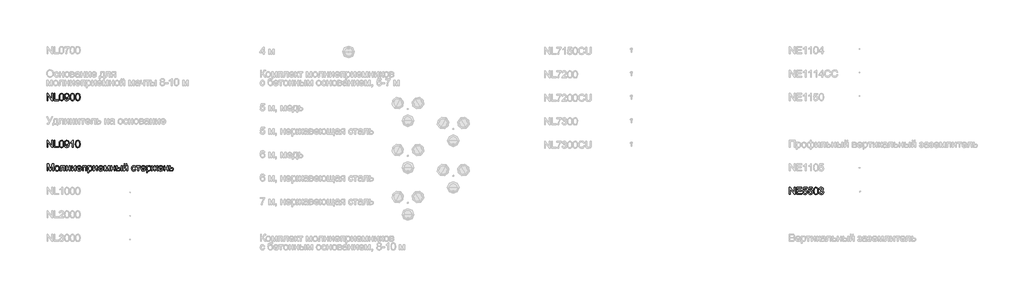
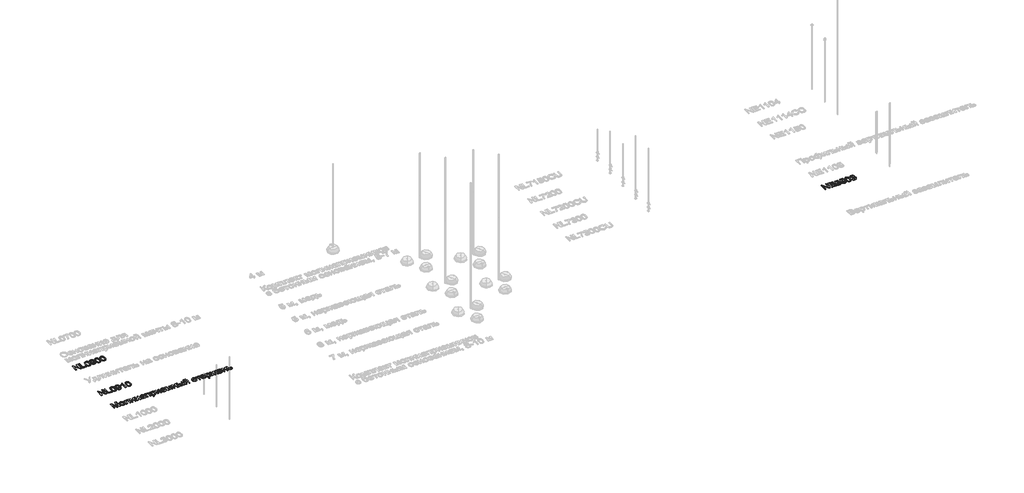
# One storey, part 52 of 124: 4 proxies.
"""IFC4 building model written with IfcOpenShell, lengths in millimetres."""

from ifc_helpers import new_model, si_unit, origin, origin_with_axes, place, context, project, spatial, polyline, outline, extrude, element, save

model = new_model("IFC4")

# Units and contexts
model_context = context("Model", 3, world=origin())
ifc_project = project(units=[si_unit("LENGTHUNIT", "METRE", prefix="MILLI")], contexts=[model_context])

# Site, building, storey
site = spatial("IfcSite", under=ifc_project)
building = spatial("IfcBuilding", under=site)
storey = spatial("IfcBuildingStorey", under=building, Name="Этаж 01", Elevation=0.0)

# Proxies
placement = place(None, origin())
element("IfcBuildingElementProxy", 1, Name="300", ObjectType="300", at=placement, inside=storey, context=model_context, shape_type="SweptSolid", body=[
    extrude(outline(polyline([(1299.8220677, -61074.498362), (1299.8220677, -60773.1294316), (1340.1419344, -60773.1294316), (1497.5954283, -61011.8848464), (1497.5954283, -60773.1294316), (1535.2665446, -60773.1294316), (1535.2665446, -61074.498362), (1494.9466779, -61074.498362), (1337.493184, -60835.6693707), (1337.493184, -61074.498362), (1299.8220677, -61074.498362)])), origin_with_axes(), (0.0, 0.0, 1.0), 20.0),
    extrude(outline(polyline([(1601.1909981, -61074.498362), (1601.1909981, -60773.1294316), (1638.8621144, -60773.1294316), (1638.8621144, -61036.8272457), (1789.5465797, -61036.8272457), (1789.5465797, -61074.498362), (1601.1909981, -61074.498362)])), origin_with_axes(), (0.0, 0.0, 1.0), 20.0),
    extrude(outline(polyline([(1817.7999169, -60926.2419179), (1820.5682289, -60878.0033913), (1828.873165, -60839.5321317), (1842.6319516, -60810.2395278), (1861.7618153, -60789.5369685), (1886.400712, -60777.2313158), (1916.6865972, -60773.1294316), (1939.8999511, -60775.5574527), (1960.6852838, -60782.8415162), (1978.0677081, -60794.6965135), (1991.0723366, -60810.8373361), (2000.8947859, -60831.1260281), (2008.7306724, -60855.4246339), (2013.8626262, -60886.2807362), (2015.5732775, -60926.2419179), (2012.8325566, -60974.2045331), (2004.6103941, -61012.5838222), (1990.9343809, -61041.9040172), (1971.8321083, -61062.68935), (1947.1380294, -61075.0777761), (1916.6865972, -61079.2072515), (1895.9380527, -61077.4138268), (1877.5439529, -61072.0335526), (1861.5042979, -61063.066429), (1847.8190877, -61050.5124559), (1834.6857005, -61027.8187353), (1825.3047096, -60999.5424055), (1819.6761151, -60965.6834664), (1817.7999169, -60926.2419179)]), holes=[polyline([(1855.4710332, -60926.1683415), (1859.8856172, -60985.4249339), (1865.4038471, -61005.6929326), (1873.129369, -61019.7207329), (1892.8478439, -61036.0822847), (1916.6865972, -61041.5361352), (1940.5253505, -61036.0638906), (1960.2438254, -61019.6471565), (1967.9693473, -61005.5963636), (1973.4875773, -60985.3329634), (1977.9021612, -60926.1683415), (1973.6347301, -60868.2453214), (1968.3004411, -60848.0440013), (1960.8324366, -60833.682808), (1941.1507499, -60816.5211129), (1916.2451388, -60810.8005479), (1892.6639029, -60815.8405312), (1873.7179802, -60830.9604812), (1865.7349409, -60846.595466), (1860.0327699, -60867.6751043), (1855.4710332, -60926.1683415)])]), origin_with_axes(), (0.0, 0.0, 1.0), 20.0),
    extrude(outline(polyline([(2053.2443938, -60999.1561294), (2090.9155101, -60994.4472399), (2097.353445, -61015.8303808), (2107.8380819, -61030.3893108), (2122.1119033, -61038.7494291), (2139.9173919, -61041.5361352), (2155.8926675, -61039.7427105), (2170.4148093, -61034.3624363), (2182.4813387, -61025.9839239), (2191.0897774, -61015.1957844), (2203.4138242, -60982.4542868), (2208.8584778, -60938.7499058), (2208.6377486, -60931.3922659), (2195.5871348, -60947.3215563), (2178.5082132, -60959.9399087), (2158.6333884, -60968.1620713), (2137.1950651, -60970.9027922), (2119.2999053, -60969.2289291), (2102.8440838, -60964.2073398), (2087.8276006, -60955.8380245), (2074.2504557, -60944.1209829), (2063.0001645, -60929.667819), (2054.9642421, -60913.0901366), (2050.1426887, -60894.3879357), (2048.5355043, -60873.5612162), (2050.2208637, -60852.0401195), (2055.2769418, -60832.7263148), (2063.7037388, -60815.619802), (2075.5012545, -60800.7205812), (2089.837156, -60788.6494532), (2105.8791103, -60780.027219), (2123.6271173, -60774.8538784), (2143.081177, -60773.1294316), (2171.1781644, -60777.0657689), (2196.7551601, -60788.8747809), (2218.1474982, -60807.9678565), (2233.6905125, -60833.7563844), (2243.1542768, -60869.4041497), (2246.3088649, -60918.0749377), (2243.1634738, -60969.6795845), (2233.7273006, -61009.5671899), (2218.0831188, -61039.5403754), (2196.3137017, -61061.401763), (2169.3571485, -61074.7558794), (2138.1515583, -61079.2072515), (2105.9434896, -61073.9557361), (2080.2469323, -61058.2011896), (2062.2758968, -61032.9368936), (2053.2443938, -60999.1561294)]), holes=[polyline([(2208.6377486, -60872.6782994), (2204.5726525, -60847.147289), (2192.3773644, -60827.5023904), (2173.4498357, -60814.9760085), (2149.1880182, -60810.8005479), (2124.0248897, -60815.2979053), (2103.8649564, -60828.7899774), (2090.6212045, -60849.4373544), (2086.2066206, -60875.4006262), (2090.3820812, -60898.6783595), (2102.9084632, -60917.1552327), (2122.5717558, -60929.2125651), (2148.1579486, -60933.2316759), (2172.2266281, -60929.2125651), (2191.6048122, -60917.1552327), (2204.3795145, -60897.9977778), (2208.6377486, -60872.6782994)])]), origin_with_axes(), (0.0, 0.0, 1.0), 20.0),
    extrude(outline(polyline([(2279.2710917, -60926.2419179), (2282.0394037, -60878.0033913), (2290.3443397, -60839.5321317), (2304.1031263, -60810.2395278), (2323.2329901, -60789.5369685), (2347.8718867, -60777.2313158), (2378.157772, -60773.1294316), (2401.3711259, -60775.5574527), (2422.1564586, -60782.8415162), (2439.5388829, -60794.6965135), (2452.5435114, -60810.8373361), (2462.3659607, -60831.1260281), (2470.2018471, -60855.4246339), (2475.333801, -60886.2807362), (2477.0444523, -60926.2419179), (2474.3037314, -60974.2045331), (2466.0815688, -61012.5838222), (2452.4055556, -61041.9040172), (2433.303283, -61062.68935), (2408.6092041, -61075.0777761), (2378.157772, -61079.2072515), (2357.4092274, -61077.4138268), (2339.0151277, -61072.0335526), (2322.9754727, -61063.066429), (2309.2902625, -61050.5124559), (2296.1568752, -61027.8187353), (2286.7758844, -60999.5424055), (2281.1472898, -60965.6834664), (2279.2710917, -60926.2419179)]), holes=[polyline([(2316.942208, -60926.1683415), (2321.3567919, -60985.4249339), (2326.8750218, -61005.6929326), (2334.6005437, -61019.7207329), (2354.3190187, -61036.0822847), (2378.157772, -61041.5361352), (2401.9965252, -61036.0638906), (2421.7150002, -61019.6471565), (2429.4405221, -61005.5963636), (2434.958752, -60985.3329634), (2439.373336, -60926.1683415), (2435.1059048, -60868.2453214), (2429.7716159, -60848.0440013), (2422.3036114, -60833.682808), (2402.6219246, -60816.5211129), (2377.7163136, -60810.8005479), (2354.1350777, -60815.8405312), (2335.1891549, -60830.9604812), (2327.2061156, -60846.595466), (2321.5039447, -60867.6751043), (2316.942208, -60926.1683415)])]), origin_with_axes(), (0.0, 0.0, 1.0), 20.0),
    extrude(outline(polyline([(2510.006679, -60926.2419179), (2512.774991, -60878.0033913), (2521.0799271, -60839.5321317), (2534.8387137, -60810.2395278), (2553.9685775, -60789.5369685), (2578.6074741, -60777.2313158), (2608.8933593, -60773.1294316), (2632.1067132, -60775.5574527), (2652.892046, -60782.8415162), (2670.2744702, -60794.6965135), (2683.2790988, -60810.8373361), (2693.101548, -60831.1260281), (2700.9374345, -60855.4246339), (2706.0693884, -60886.2807362), (2707.7800396, -60926.2419179), (2705.0393188, -60974.2045331), (2696.8171562, -61012.5838222), (2683.141143, -61041.9040172), (2664.0388704, -61062.68935), (2639.3447915, -61075.0777761), (2608.8933593, -61079.2072515), (2588.1448148, -61077.4138268), (2569.750715, -61072.0335526), (2553.7110601, -61063.066429), (2540.0258498, -61050.5124559), (2526.8924626, -61027.8187353), (2517.5114717, -60999.5424055), (2511.8828772, -60965.6834664), (2510.006679, -60926.2419179)]), holes=[polyline([(2547.6777953, -60926.1683415), (2552.0923793, -60985.4249339), (2557.6106092, -61005.6929326), (2565.3361311, -61019.7207329), (2585.054606, -61036.0822847), (2608.8933593, -61041.5361352), (2632.7321126, -61036.0638906), (2652.4505876, -61019.6471565), (2660.1761095, -61005.5963636), (2665.6943394, -60985.3329634), (2670.1089233, -60926.1683415), (2665.8414922, -60868.2453214), (2660.5072033, -60848.0440013), (2653.0391988, -60833.682808), (2633.357512, -60816.5211129), (2608.4519009, -60810.8005479), (2584.870665, -60815.8405312), (2565.9247423, -60830.9604812), (2557.941703, -60846.595466), (2552.2395321, -60867.6751043), (2547.6777953, -60926.1683415)])]), origin_with_axes(), (0.0, 0.0, 1.0), 20.0),
])
element("IfcBuildingElementProxy", 2, Name="300", ObjectType="300", at=placement, inside=storey, context=model_context, shape_type="SweptSolid", body=[
    extrude(outline(polyline([(1299.8220677, -63074.498362), (1299.8220677, -62773.1294316), (1340.1419344, -62773.1294316), (1497.5954283, -63011.8848464), (1497.5954283, -62773.1294316), (1535.2665446, -62773.1294316), (1535.2665446, -63074.498362), (1494.9466779, -63074.498362), (1337.493184, -62835.6693707), (1337.493184, -63074.498362), (1299.8220677, -63074.498362)])), origin_with_axes(), (0.0, 0.0, 1.0), 20.0),
    extrude(outline(polyline([(1601.1909981, -63074.498362), (1601.1909981, -62773.1294316), (1638.8621144, -62773.1294316), (1638.8621144, -63036.8272457), (1789.5465797, -63036.8272457), (1789.5465797, -63074.498362), (1601.1909981, -63074.498362)])), origin_with_axes(), (0.0, 0.0, 1.0), 20.0),
    extrude(outline(polyline([(1817.7999169, -62926.2419179), (1820.5682289, -62878.0033913), (1828.873165, -62839.5321317), (1842.6319516, -62810.2395278), (1861.7618153, -62789.5369685), (1886.400712, -62777.2313158), (1916.6865972, -62773.1294316), (1939.8999511, -62775.5574527), (1960.6852838, -62782.8415162), (1978.0677081, -62794.6965135), (1991.0723366, -62810.8373361), (2000.8947859, -62831.1260281), (2008.7306724, -62855.4246339), (2013.8626262, -62886.2807362), (2015.5732775, -62926.2419179), (2012.8325566, -62974.2045331), (2004.6103941, -63012.5838222), (1990.9343809, -63041.9040172), (1971.8321083, -63062.68935), (1947.1380294, -63075.0777761), (1916.6865972, -63079.2072515), (1895.9380527, -63077.4138268), (1877.5439529, -63072.0335526), (1861.5042979, -63063.066429), (1847.8190877, -63050.5124559), (1834.6857005, -63027.8187353), (1825.3047096, -62999.5424055), (1819.6761151, -62965.6834664), (1817.7999169, -62926.2419179)]), holes=[polyline([(1855.4710332, -62926.1683415), (1859.8856172, -62985.4249339), (1865.4038471, -63005.6929326), (1873.129369, -63019.7207329), (1892.8478439, -63036.0822847), (1916.6865972, -63041.5361352), (1940.5253505, -63036.0638906), (1960.2438254, -63019.6471565), (1967.9693473, -63005.5963636), (1973.4875773, -62985.3329634), (1977.9021612, -62926.1683415), (1973.6347301, -62868.2453214), (1968.3004411, -62848.0440013), (1960.8324366, -62833.682808), (1941.1507499, -62816.5211129), (1916.2451388, -62810.8005479), (1892.6639029, -62815.8405312), (1873.7179802, -62830.9604812), (1865.7349409, -62846.595466), (1860.0327699, -62867.6751043), (1855.4710332, -62926.1683415)])]), origin_with_axes(), (0.0, 0.0, 1.0), 20.0),
    extrude(outline(polyline([(2053.2443938, -62999.1561294), (2090.9155101, -62994.4472399), (2097.353445, -63015.8303808), (2107.8380819, -63030.3893108), (2122.1119033, -63038.7494291), (2139.9173919, -63041.5361352), (2155.8926675, -63039.7427105), (2170.4148093, -63034.3624363), (2182.4813387, -63025.9839239), (2191.0897774, -63015.1957844), (2203.4138242, -62982.4542868), (2208.8584778, -62938.7499058), (2208.6377486, -62931.3922659), (2195.5871348, -62947.3215563), (2178.5082132, -62959.9399087), (2158.6333884, -62968.1620713), (2137.1950651, -62970.9027922), (2119.2999053, -62969.2289291), (2102.8440838, -62964.2073398), (2087.8276006, -62955.8380245), (2074.2504557, -62944.1209829), (2063.0001645, -62929.667819), (2054.9642421, -62913.0901366), (2050.1426887, -62894.3879357), (2048.5355043, -62873.5612162), (2050.2208637, -62852.0401195), (2055.2769418, -62832.7263148), (2063.7037388, -62815.619802), (2075.5012545, -62800.7205812), (2089.837156, -62788.6494532), (2105.8791103, -62780.027219), (2123.6271173, -62774.8538784), (2143.081177, -62773.1294316), (2171.1781644, -62777.0657689), (2196.7551601, -62788.8747809), (2218.1474982, -62807.9678565), (2233.6905125, -62833.7563844), (2243.1542768, -62869.4041497), (2246.3088649, -62918.0749377), (2243.1634738, -62969.6795845), (2233.7273006, -63009.5671899), (2218.0831188, -63039.5403754), (2196.3137017, -63061.401763), (2169.3571485, -63074.7558794), (2138.1515583, -63079.2072515), (2105.9434896, -63073.9557361), (2080.2469323, -63058.2011896), (2062.2758968, -63032.9368936), (2053.2443938, -62999.1561294)]), holes=[polyline([(2208.6377486, -62872.6782994), (2204.5726525, -62847.147289), (2192.3773644, -62827.5023904), (2173.4498357, -62814.9760085), (2149.1880182, -62810.8005479), (2124.0248897, -62815.2979053), (2103.8649564, -62828.7899774), (2090.6212045, -62849.4373544), (2086.2066206, -62875.4006262), (2090.3820812, -62898.6783595), (2102.9084632, -62917.1552327), (2122.5717558, -62929.2125651), (2148.1579486, -62933.2316759), (2172.2266281, -62929.2125651), (2191.6048122, -62917.1552327), (2204.3795145, -62897.9977778), (2208.6377486, -62872.6782994)])]), origin_with_axes(), (0.0, 0.0, 1.0), 20.0),
    extrude(outline(polyline([(2420.5377778, -63074.498362), (2382.8666615, -63074.498362), (2382.8666615, -62839.6424963), (2347.182108, -62865.0631421), (2307.5244289, -62884.0826413), (2307.5244289, -62848.4716642), (2337.1113383, -62832.3768269), (2362.7435164, -62813.228569), (2382.9494349, -62792.8663006), (2396.2575661, -62773.1294316), (2420.5377778, -62773.1294316), (2420.5377778, -63074.498362)])), origin_with_axes(), (0.0, 0.0, 1.0), 20.0),
    extrude(outline(polyline([(2510.006679, -62926.2419179), (2512.774991, -62878.0033913), (2521.0799271, -62839.5321317), (2534.8387137, -62810.2395278), (2553.9685775, -62789.5369685), (2578.6074741, -62777.2313158), (2608.8933593, -62773.1294316), (2632.1067132, -62775.5574527), (2652.892046, -62782.8415162), (2670.2744702, -62794.6965135), (2683.2790988, -62810.8373361), (2693.101548, -62831.1260281), (2700.9374345, -62855.4246339), (2706.0693884, -62886.2807362), (2707.7800396, -62926.2419179), (2705.0393188, -62974.2045331), (2696.8171562, -63012.5838222), (2683.141143, -63041.9040172), (2664.0388704, -63062.68935), (2639.3447915, -63075.0777761), (2608.8933593, -63079.2072515), (2588.1448148, -63077.4138268), (2569.750715, -63072.0335526), (2553.7110601, -63063.066429), (2540.0258498, -63050.5124559), (2526.8924626, -63027.8187353), (2517.5114717, -62999.5424055), (2511.8828772, -62965.6834664), (2510.006679, -62926.2419179)]), holes=[polyline([(2547.6777953, -62926.1683415), (2552.0923793, -62985.4249339), (2557.6106092, -63005.6929326), (2565.3361311, -63019.7207329), (2585.054606, -63036.0822847), (2608.8933593, -63041.5361352), (2632.7321126, -63036.0638906), (2652.4505876, -63019.6471565), (2660.1761095, -63005.5963636), (2665.6943394, -62985.3329634), (2670.1089233, -62926.1683415), (2665.8414922, -62868.2453214), (2660.5072033, -62848.0440013), (2653.0391988, -62833.682808), (2633.357512, -62816.5211129), (2608.4519009, -62810.8005479), (2584.870665, -62815.8405312), (2565.9247423, -62830.9604812), (2557.941703, -62846.595466), (2552.2395321, -62867.6751043), (2547.6777953, -62926.1683415)])]), origin_with_axes(), (0.0, 0.0, 1.0), 20.0),
])
element("IfcBuildingElementProxy", 3, Name="300", ObjectType="300", at=placement, inside=storey, context=model_context, shape_type="SweptSolid", body=[
    extrude(outline(polyline([(1299.8220677, -64074.498362), (1299.8220677, -63773.1294316), (1364.6428752, -63773.1294316), (1426.2998976, -63985.5444956), (1438.7343091, -64029.9110642), (1452.1987901, -63981.8656756), (1512.8257429, -63773.1294316), (1577.6465505, -63773.1294316), (1577.6465505, -64074.498362), (1539.9754341, -64074.498362), (1539.9754341, -63810.8005479), (1464.2653195, -64074.498362), (1413.2032986, -64074.498362), (1337.493184, -63810.8005479), (1337.493184, -64074.498362), (1299.8220677, -64074.498362)])), origin_with_axes(), (0.0, 0.0, 1.0), 20.0),
    extrude(outline(polyline([(1629.4443354, -63963.8394579), (1631.4814819, -63935.1768519), (1637.5929216, -63910.4781745), (1647.7786543, -63889.7434255), (1662.0386801, -63872.972605), (1676.395275, -63862.2534434), (1692.2417919, -63854.5968994), (1709.578231, -63850.002973), (1728.4045921, -63848.4716642), (1749.1876255, -63850.336366), (1767.9794977, -63855.9304716), (1784.7802086, -63865.2539809), (1799.5897581, -63878.306894), (1811.6769809, -63894.6477523), (1820.3107115, -63913.8350977), (1825.4909499, -63935.8689299), (1827.217696, -63960.7492491), (1824.1642754, -63998.8066415), (1815.0040137, -64027.7773486), (1800.0036254, -64049.4731893), (1779.4298248, -64065.7059823), (1754.9932633, -64075.8319342), (1728.4045921, -64079.2072515), (1707.318056, -64077.3494475), (1688.3514398, -64071.7760352), (1671.5047437, -64062.4870149), (1656.7779676, -64049.4823863), (1644.8195035, -64032.9828788), (1636.2777434, -64013.2092216), (1631.1526874, -63990.1614146), (1629.4443354, -63963.8394579)]), holes=[polyline([(1667.1154517, -63963.7658815), (1671.4748533, -63997.8593454), (1684.5530582, -64022.1487541), (1704.234745, -64036.6892899), (1728.4045921, -64041.5361352), (1752.4640746, -64036.6616988), (1772.1089731, -64022.0383895), (1785.187178, -63997.427084), (1789.5465797, -63962.5886591), (1785.1595869, -63929.4884766), (1771.9986085, -63905.5301616), (1752.3261188, -63890.9896258), (1728.4045921, -63886.1427805), (1704.234745, -63890.9712317), (1684.5530582, -63905.4565852), (1671.4748533, -63929.6908117), (1667.1154517, -63963.7658815)])]), origin_with_axes(), (0.0, 0.0, 1.0), 20.0),
    extrude(outline(polyline([(1888.43326, -63853.1805537), (2057.9532834, -63853.1805537), (2057.9532834, -64074.2776328), (2020.282167, -64074.2776328), (2020.282167, -63890.85167), (1926.1043763, -63890.85167), (1926.1043763, -63996.4338026), (1923.5659905, -64045.1413788), (1918.8111157, -64056.1686416), (1909.6232629, -64065.7059823), (1895.6805353, -64072.3002671), (1876.6610361, -64074.498362), (1846.0532541, -64072.5853756), (1846.0532541, -64036.8272457), (1862.9022495, -64036.8272457), (1879.9351859, -64034.5095891), (1886.7410028, -64027.1519492), (1888.43326, -63994.3000871), (1888.43326, -63853.1805537)])), origin_with_axes(), (0.0, 0.0, 1.0), 20.0),
    extrude(outline(polyline([(2114.4599578, -63853.1805537), (2152.1310741, -63853.1805537), (2152.1310741, -63937.9405654), (2251.0177544, -63937.9405654), (2251.0177544, -63853.1805537), (2288.6888707, -63853.1805537), (2288.6888707, -64074.498362), (2251.0177544, -64074.498362), (2251.0177544, -63975.6116817), (2152.1310741, -63975.6116817), (2152.1310741, -64074.498362), (2114.4599578, -64074.498362), (2114.4599578, -63853.1805537)])), origin_with_axes(), (0.0, 0.0, 1.0), 20.0),
    extrude(outline(polyline([(2345.1955452, -63853.1805537), (2382.8666615, -63853.1805537), (2382.8666615, -64021.9648131), (2475.4257715, -63853.1805537), (2524.1333476, -63853.1805537), (2524.1333476, -64074.498362), (2486.4622313, -64074.498362), (2486.4622313, -63906.7441722), (2394.4917325, -64074.498362), (2345.1955452, -64074.498362), (2345.1955452, -63853.1805537)])), origin_with_axes(), (0.0, 0.0, 1.0), 20.0),
    extrude(outline(polyline([(2735.5919185, -64008.5739085), (2772.5272708, -64013.282798), (2759.2191396, -64041.1130709), (2737.9831514, -64061.9167978), (2709.2975529, -64074.8846381), (2673.6405905, -64079.2072515), (2650.2662882, -64077.3425497), (2629.4395688, -64071.7484441), (2611.1604321, -64062.4249348), (2595.4288783, -64049.3720217), (2582.7783362, -64032.9529884), (2573.7422347, -64013.5311184), (2568.3205738, -63991.1064115), (2566.5133535, -63965.6788678), (2568.3389679, -63939.3891007), (2573.8158111, -63916.2171336), (2582.9438831, -63896.1629663), (2595.7231839, -63879.226599), (2611.413351, -63865.771315), (2629.2740219, -63856.1603979), (2649.3051965, -63850.3938476), (2671.5068749, -63848.4716642), (2692.9934827, -63850.3892491), (2712.4245498, -63856.1420038), (2729.8000763, -63865.7299283), (2745.1200621, -63879.1530226), (2757.6257507, -63896.0526017), (2766.5583854, -63916.0699808), (2771.9179662, -63939.2051598), (2773.7044932, -63965.4581386), (2773.483764, -63975.6116817), (2604.1844698, -63975.6116817), (2610.7051782, -64003.8098366), (2625.8527193, -64024.5399871), (2647.7141069, -64037.2870982), (2674.3763545, -64041.5361352), (2694.4259232, -64039.5679666), (2711.3117068, -64033.6634605), (2725.0337052, -64023.4547352), (2735.5919185, -64008.5739085)]), holes=[polyline([(2604.1844698, -63937.9405654), (2736.0333769, -63937.9405654), (2730.9382112, -63918.0381495), (2720.9502151, -63903.8011162), (2698.9876599, -63890.5573644), (2671.3597221, -63886.1427805), (2645.9666674, -63889.6652506), (2624.9698025, -63900.2326609), (2610.3740844, -63916.7045772), (2604.1844698, -63937.9405654)])]), origin_with_axes(), (0.0, 0.0, 1.0), 20.0),
    extrude(outline(polyline([(2811.3756095, -63853.1805537), (2980.8956329, -63853.1805537), (2980.8956329, -64074.498362), (2943.2245165, -64074.498362), (2943.2245165, -63890.85167), (2849.0467258, -63890.85167), (2849.0467258, -64074.498362), (2811.3756095, -64074.498362), (2811.3756095, -63853.1805537)])), origin_with_axes(), (0.0, 0.0, 1.0), 20.0),
    extrude(outline(polyline([(3037.4023073, -64159.2583737), (3037.4023073, -63853.1805537), (3075.0734236, -63853.1805537), (3075.0734236, -63890.115906), (3087.3606823, -63871.8965502), (3101.1194689, -63858.8827246), (3117.1591239, -63851.0744293), (3136.2889876, -63848.4716642), (3161.7648158, -63852.1136959), (3184.0400706, -63863.0397912), (3202.176653, -63880.5877623), (3215.2364638, -63904.0954218), (3223.1275326, -63931.8521184), (3225.7578888, -63962.1472007), (3222.7872417, -63994.3644664), (3213.8753004, -64023.1788237), (3199.3071734, -64047.1279416), (3179.3679693, -64064.7494891), (3156.1454183, -64075.5928109), (3131.7272509, -64079.2072515), (3114.409206, -64076.7884274), (3098.9489651, -64069.5319551), (3085.7144103, -64058.5782687), (3075.0734236, -64045.0678024), (3075.0734236, -64159.2583737), (3037.4023073, -64159.2583737)]), holes=[polyline([(3075.0734236, -63965.6052914), (3079.1477167, -63999.3768586), (3091.370596, -64022.9948827), (3109.4060108, -64036.9008221), (3130.9179105, -64041.5361352), (3152.7792981, -64036.7352752), (3171.2745654, -64022.3326951), (3183.8837207, -63997.8501483), (3188.0867725, -63962.8093883), (3183.9848883, -63929.2217621), (3171.6792356, -63905.2726442), (3153.6714119, -63890.9252464), (3132.4630149, -63886.1427805), (3111.1718444, -63891.2287491), (3092.474242, -63906.4866548), (3079.4236282, -63931.4382511), (3075.0734236, -63965.6052914)])]), origin_with_axes(), (0.0, 0.0, 1.0), 20.0),
    extrude(outline(polyline([(3268.1378947, -63853.1805537), (3305.809011, -63853.1805537), (3305.809011, -64021.9648131), (3398.368121, -63853.1805537), (3447.0756971, -63853.1805537), (3447.0756971, -64074.498362), (3409.4045808, -64074.498362), (3409.4045808, -63906.7441722), (3317.434082, -64074.498362), (3268.1378947, -64074.498362), (3268.1378947, -63853.1805537)])), origin_with_axes(), (0.0, 0.0, 1.0), 20.0),
    extrude(outline(polyline([(3658.534268, -64008.5739085), (3695.4696203, -64013.282798), (3682.1614891, -64041.1130709), (3660.9255009, -64061.9167978), (3632.2399024, -64074.8846381), (3596.58294, -64079.2072515), (3573.2086377, -64077.3425497), (3552.3819183, -64071.7484441), (3534.1027816, -64062.4249348), (3518.3712278, -64049.3720217), (3505.7206857, -64032.9529884), (3496.6845842, -64013.5311184), (3491.2629233, -63991.1064115), (3489.455703, -63965.6788678), (3491.2813174, -63939.3891007), (3496.7581606, -63916.2171336), (3505.8862326, -63896.1629663), (3518.6655334, -63879.226599), (3534.3557005, -63865.771315), (3552.2163714, -63856.1603979), (3572.247546, -63850.3938476), (3594.4492244, -63848.4716642), (3615.9358322, -63850.3892491), (3635.3668993, -63856.1420038), (3652.7424258, -63865.7299283), (3668.0624116, -63879.1530226), (3680.5681002, -63896.0526017), (3689.5007349, -63916.0699808), (3694.8603157, -63939.2051598), (3696.6468427, -63965.4581386), (3696.4261135, -63975.6116817), (3527.1268193, -63975.6116817), (3533.6475277, -64003.8098366), (3548.7950688, -64024.5399871), (3570.6564564, -64037.2870982), (3597.318704, -64041.5361352), (3617.3682727, -64039.5679666), (3634.2540563, -64033.6634605), (3647.9760547, -64023.4547352), (3658.534268, -64008.5739085)]), holes=[polyline([(3527.1268193, -63937.9405654), (3658.9757264, -63937.9405654), (3653.8805607, -63918.0381495), (3643.8925646, -63903.8011162), (3621.9300094, -63890.5573644), (3594.3020716, -63886.1427805), (3568.9090169, -63889.6652506), (3547.912152, -63900.2326609), (3533.3164339, -63916.7045772), (3527.1268193, -63937.9405654)])]), origin_with_axes(), (0.0, 0.0, 1.0), 20.0),
    extrude(outline(polyline([(3734.317959, -63853.1805537), (3799.1387665, -63853.1805537), (3849.0971415, -64030.3525226), (3902.9550656, -63853.1805537), (3965.0535464, -63853.1805537), (3965.0535464, -64074.498362), (3927.38243, -64074.498362), (3927.38243, -63896.2963235), (3873.2302004, -64074.498362), (3823.7868602, -64074.498362), (3771.9890753, -63887.7614613), (3771.9890753, -64074.498362), (3734.317959, -64074.498362), (3734.317959, -63853.1805537)])), origin_with_axes(), (0.0, 0.0, 1.0), 20.0),
    extrude(outline(polyline([(4021.5602208, -63853.1805537), (4059.2313371, -63853.1805537), (4059.2313371, -63937.9405654), (4158.1180174, -63937.9405654), (4158.1180174, -63853.1805537), (4195.7891337, -63853.1805537), (4195.7891337, -64074.498362), (4158.1180174, -64074.498362), (4158.1180174, -63975.6116817), (4059.2313371, -63975.6116817), (4059.2313371, -64074.498362), (4021.5602208, -64074.498362), (4021.5602208, -63853.1805537)])), origin_with_axes(), (0.0, 0.0, 1.0), 20.0),
    extrude(outline(polyline([(4459.4869479, -63853.1805537), (4497.1580642, -63853.1805537), (4497.1580642, -64074.498362), (4459.4869479, -64074.498362), (4459.4869479, -63853.1805537)])), origin_with_axes(), (0.0, 0.0, 1.0), 20.0),
    extrude(outline(polyline([(4252.2958082, -63853.1805537), (4289.9669245, -63853.1805537), (4289.9669245, -63933.2316759), (4336.5407851, -63933.2316759), (4376.7962724, -63937.9497624), (4393.0129706, -63943.8473707), (4406.6223052, -63952.1040222), (4417.3897513, -63962.4346085), (4425.0807843, -63974.554021), (4429.695404, -63988.4622596), (4431.2336106, -64004.1593245), (4426.0740657, -64031.1158777), (4410.5954307, -64053.8601821), (4398.7335356, -64062.8893858), (4383.7860303, -64069.338817), (4344.634189, -64074.498362), (4252.2958082, -64074.498362), (4252.2958082, -63853.1805537)]), holes=[polyline([(4289.9669245, -64036.8272457), (4328.6681104, -64036.8272457), (4358.6688871, -64034.84988), (4378.6264853, -64028.9177828), (4389.8284921, -64018.7918309), (4393.5624943, -64004.2329009), (4390.7941823, -63991.9272482), (4382.4892463, -63981.0563352), (4364.729743, -63973.4411779), (4333.5977291, -63970.9027922), (4289.9669245, -63970.9027922), (4289.9669245, -64036.8272457)])]), origin_with_axes(), (0.0, 0.0, 1.0), 20.0),
    extrude(outline(polyline([(4553.6647386, -63853.1805537), (4591.3358549, -63853.1805537), (4591.3358549, -64021.9648131), (4683.8949649, -63853.1805537), (4732.6025411, -63853.1805537), (4732.6025411, -64074.498362), (4694.9314248, -64074.498362), (4694.9314248, -63906.7441722), (4602.960926, -64074.498362), (4553.6647386, -64074.498362), (4553.6647386, -63853.1805537)])), origin_with_axes(), (0.0, 0.0, 1.0), 20.0),
    extrude(outline(polyline([(4676.0958666, -63773.1294316), (4704.3492039, -63773.1294316), (4698.2699539, -63797.2532934), (4686.0654687, -63815.0311908), (4668.2875713, -63825.9848772), (4645.4880846, -63829.636106), (4620.7480205, -63826.0124684), (4601.5629744, -63815.1415554), (4588.4479813, -63797.3912491), (4581.9180759, -63773.1294316), (4610.1714131, -63773.1294316), (4614.1445386, -63785.5362518), (4620.7664146, -63794.3562227), (4630.073829, -63799.6261323), (4642.1035703, -63801.3827688), (4655.6784159, -63799.6813146), (4665.5008652, -63794.5769519), (4672.1227411, -63785.8121633), (4676.0958666, -63773.1294316)])), origin_with_axes(), (0.0, 0.0, 1.0), 20.0),
    extrude(outline(polyline([(5048.0981402, -63994.4472399), (5085.7692565, -63999.1561294), (5075.2662255, -64032.6609821), (5055.5293565, -64057.9804604), (5028.4164534, -64073.9005538), (4995.7853204, -64079.2072515), (4974.6573976, -64077.3563453), (4955.7137741, -64071.8036264), (4938.95445, -64062.5490949), (4924.3794252, -64049.5927509), (4912.5819094, -64033.1783162), (4904.1551125, -64013.5495125), (4899.0990343, -63990.7063398), (4897.4136749, -63964.6487982), (4900.2923515, -63931.1255514), (4908.9283814, -63902.0720709), (4923.4597202, -63878.6103966), (4944.0243237, -63861.8625688), (4968.6264321, -63851.8193903), (4995.2702856, -63848.4716642), (5027.1012753, -63853.0701891), (5052.5495123, -63866.8657639), (5070.8056563, -63889.1226246), (5081.0603669, -63919.1050072), (5043.3892506, -63923.8138968), (5036.5558426, -63907.3787686), (5025.9148558, -63895.5973477), (5012.0549017, -63888.5064223), (4995.5645912, -63886.1427805), (4971.2200002, -63890.7964877), (4951.8969984, -63904.7576094), (4939.287843, -63928.7803037), (4935.0847912, -63963.6187287), (4939.1958725, -63998.9262031), (4951.5291164, -64023.0316709), (4970.5026303, -64036.9100191), (4994.5345217, -64041.5361352), (5014.0414644, -64038.6482616), (5030.0351342, -64029.9846406), (5041.6694023, -64015.3245431), (5048.0981402, -63994.4472399)])), origin_with_axes(), (0.0, 0.0, 1.0), 20.0),
    extrude(outline(polyline([(5099.8959251, -63853.1805537), (5278.8337275, -63853.1805537), (5278.8337275, -63890.85167), (5208.2003845, -63890.85167), (5208.2003845, -64074.498362), (5170.5292681, -64074.498362), (5170.5292681, -63890.85167), (5099.8959251, -63890.85167), (5099.8959251, -63853.1805537)])), origin_with_axes(), (0.0, 0.0, 1.0), 20.0),
    extrude(outline(polyline([(5466.7478507, -64008.5739085), (5503.683203, -64013.282798), (5490.3750718, -64041.1130709), (5469.1390836, -64061.9167978), (5440.4534851, -64074.8846381), (5404.7965227, -64079.2072515), (5381.4222204, -64077.3425497), (5360.595501, -64071.7484441), (5342.3163643, -64062.4249348), (5326.5848105, -64049.3720217), (5313.9342684, -64032.9529884), (5304.8981669, -64013.5311184), (5299.476506, -63991.1064115), (5297.6692857, -63965.6788678), (5299.4949001, -63939.3891007), (5304.9717433, -63916.2171336), (5314.0998153, -63896.1629663), (5326.8791161, -63879.226599), (5342.5692832, -63865.771315), (5360.4299541, -63856.1603979), (5380.4611287, -63850.3938476), (5402.6628071, -63848.4716642), (5424.1494149, -63850.3892491), (5443.580482, -63856.1420038), (5460.9560085, -63865.7299283), (5476.2759943, -63879.1530226), (5488.7816829, -63896.0526017), (5497.7143176, -63916.0699808), (5503.0738984, -63939.2051598), (5504.8604254, -63965.4581386), (5504.6396962, -63975.6116817), (5335.340402, -63975.6116817), (5341.8611103, -64003.8098366), (5357.0086515, -64024.5399871), (5378.8700391, -64037.2870982), (5405.5322867, -64041.5361352), (5425.5818554, -64039.5679666), (5442.467639, -64033.6634605), (5456.1896374, -64023.4547352), (5466.7478507, -64008.5739085)]), holes=[polyline([(5335.340402, -63937.9405654), (5467.1893091, -63937.9405654), (5462.0941434, -63918.0381495), (5452.1061473, -63903.8011162), (5430.1435921, -63890.5573644), (5402.5156543, -63886.1427805), (5377.1225996, -63889.6652506), (5356.1257347, -63900.2326609), (5341.5300166, -63916.7045772), (5335.340402, -63937.9405654)])]), origin_with_axes(), (0.0, 0.0, 1.0), 20.0),
    extrude(outline(polyline([(5542.5315417, -64159.2583737), (5542.5315417, -63853.1805537), (5580.202658, -63853.1805537), (5580.202658, -63890.115906), (5592.4899166, -63871.8965502), (5606.2487032, -63858.8827246), (5622.2883582, -63851.0744293), (5641.418222, -63848.4716642), (5666.8940501, -63852.1136959), (5689.1693049, -63863.0397912), (5707.3058873, -63880.5877623), (5720.3656981, -63904.0954218), (5728.2567669, -63931.8521184), (5730.8871232, -63962.1472007), (5727.9164761, -63994.3644664), (5719.0045348, -64023.1788237), (5704.4364077, -64047.1279416), (5684.4972036, -64064.7494891), (5661.2746527, -64075.5928109), (5636.8564852, -64079.2072515), (5619.5384403, -64076.7884274), (5604.0781995, -64069.5319551), (5590.8436447, -64058.5782687), (5580.202658, -64045.0678024), (5580.202658, -64159.2583737), (5542.5315417, -64159.2583737)]), holes=[polyline([(5580.202658, -63965.6052914), (5584.2769511, -63999.3768586), (5596.4998304, -64022.9948827), (5614.5352452, -64036.9008221), (5636.0471448, -64041.5361352), (5657.9085324, -64036.7352752), (5676.4037997, -64022.3326951), (5689.0129551, -63997.8501483), (5693.2160069, -63962.8093883), (5689.1141226, -63929.2217621), (5676.8084699, -63905.2726442), (5658.8006462, -63890.9252464), (5637.5922492, -63886.1427805), (5616.3010788, -63891.2287491), (5597.6034763, -63906.4866548), (5584.5528626, -63931.4382511), (5580.202658, -63965.6052914)])]), origin_with_axes(), (0.0, 0.0, 1.0), 20.0),
    extrude(outline(polyline([(5909.8249257, -63853.1805537), (5909.8249257, -63947.3583445), (5923.1146627, -63945.4177669), (5931.7874808, -63939.5960344), (5952.5728135, -63899.3129559), (5965.5406538, -63874.2050097), (5977.36806, -63860.6853464), (5991.7338519, -63855.0567519), (6012.6111551, -63853.1805537), (6027.5471641, -63853.1805537), (6027.5471641, -63891.0723992), (6017.1728918, -63890.85167), (5997.7487225, -63894.7512192), (5984.2842415, -63919.1785836), (5968.6492567, -63945.9603929), (5946.3188196, -63959.5720267), (5958.7118443, -63964.874126), (5970.9485192, -63974.2321242), (5994.9528193, -64005.1158177), (6036.9649432, -64074.498362), (5993.775597, -64074.498362), (5952.4256607, -64006.0723109), (5941.1224864, -63988.1104725), (5931.3460224, -63977.6350327), (5921.4591938, -63972.5858523), (5909.8249257, -63970.9027922), (5909.8249257, -64074.498362), (5872.1538093, -64074.498362), (5872.1538093, -63970.9027922), (5860.6115117, -63972.5490641), (5850.706289, -63977.4878799), (5840.8562486, -63987.8897433), (5829.4794979, -64005.9251581), (5788.1295616, -64074.498362), (5745.0137918, -64074.498362), (5786.8787629, -64005.1158177), (5811.067004, -63974.2321242), (5823.3680583, -63964.874126), (5835.8070682, -63959.5720267), (5821.4228822, -63952.3615396), (5812.1154677, -63944.5624413), (5791.8083816, -63905.9348318), (5781.8755677, -63893.2061148), (5765.6151835, -63890.6309408), (5754.4315709, -63890.85167), (5754.4315709, -63853.1805537), (5760.0969536, -63853.1805537), (5793.1327568, -63855.5349985), (5810.2760578, -63865.5413887), (5829.4794979, -63899.3129559), (5850.0441014, -63939.338517), (5858.7169195, -63945.3533876), (5872.1538093, -63947.3583445), (5872.1538093, -63853.1805537), (5909.8249257, -63853.1805537)])), origin_with_axes(), (0.0, 0.0, 1.0), 20.0),
    extrude(outline(polyline([(6210.7523977, -64008.5739085), (6247.68775, -64013.282798), (6234.3796188, -64041.1130709), (6213.1436307, -64061.9167978), (6184.4580321, -64074.8846381), (6148.8010697, -64079.2072515), (6125.4267675, -64077.3425497), (6104.600048, -64071.7484441), (6086.3209114, -64062.4249348), (6070.5893575, -64049.3720217), (6057.9388154, -64032.9529884), (6048.9027139, -64013.5311184), (6043.481053, -63991.1064115), (6041.6738327, -63965.6788678), (6043.4994471, -63939.3891007), (6048.9762903, -63916.2171336), (6058.1043623, -63896.1629663), (6070.8836631, -63879.226599), (6086.5738302, -63865.771315), (6104.4345011, -63856.1603979), (6124.4656757, -63850.3938476), (6146.6673541, -63848.4716642), (6168.1539619, -63850.3892491), (6187.5850291, -63856.1420038), (6204.9605555, -63865.7299283), (6220.2805414, -63879.1530226), (6232.78623, -63896.0526017), (6241.7188647, -63916.0699808), (6247.0784455, -63939.2051598), (6248.8649724, -63965.4581386), (6248.6442432, -63975.6116817), (6079.344949, -63975.6116817), (6085.8656574, -64003.8098366), (6101.0131985, -64024.5399871), (6122.8745861, -64037.2870982), (6149.5368337, -64041.5361352), (6169.5864024, -64039.5679666), (6186.472186, -64033.6634605), (6200.1941844, -64023.4547352), (6210.7523977, -64008.5739085)]), holes=[polyline([(6079.344949, -63937.9405654), (6211.1938561, -63937.9405654), (6206.0986905, -63918.0381495), (6196.1106943, -63903.8011162), (6174.1481392, -63890.5573644), (6146.5202013, -63886.1427805), (6121.1271466, -63889.6652506), (6100.1302818, -63900.2326609), (6085.5345636, -63916.7045772), (6079.344949, -63937.9405654)])]), origin_with_axes(), (0.0, 0.0, 1.0), 20.0),
    extrude(outline(polyline([(6286.5360887, -63853.1805537), (6324.207205, -63853.1805537), (6324.207205, -63937.9405654), (6423.0938853, -63937.9405654), (6423.0938853, -63853.1805537), (6460.7650016, -63853.1805537), (6460.7650016, -64074.498362), (6423.0938853, -64074.498362), (6423.0938853, -63975.6116817), (6324.207205, -63975.6116817), (6324.207205, -64074.498362), (6286.5360887, -64074.498362), (6286.5360887, -63853.1805537)])), origin_with_axes(), (0.0, 0.0, 1.0), 20.0),
    extrude(outline(polyline([(6517.2716761, -63853.1805537), (6554.9427924, -63853.1805537), (6554.9427924, -63933.2316759), (6598.3528678, -63933.2316759), (6635.9871959, -63937.9497624), (6651.1347371, -63943.8473707), (6663.835863, -63952.1040222), (6673.8790414, -63962.4346085), (6681.0527403, -63974.554021), (6686.7916995, -64004.1593245), (6681.908066, -64031.1158777), (6667.2571655, -64053.8601821), (6656.0252684, -64062.8893858), (6641.8641108, -64069.338817), (6604.7540145, -64074.498362), (6517.2716761, -64074.498362), (6517.2716761, -63853.1805537)]), holes=[polyline([(6554.9427924, -64036.8272457), (6590.1123111, -64036.8272457), (6617.3999581, -64034.84988), (6635.5457375, -64028.9177828), (6645.7268718, -64018.7918309), (6649.1205832, -64004.2329009), (6646.6097885, -63991.9272482), (6639.0774047, -63981.0563352), (6622.9365822, -63973.4411779), (6594.6004715, -63970.9027922), (6554.9427924, -63970.9027922), (6554.9427924, -64036.8272457)])]), origin_with_axes(), (0.0, 0.0, 1.0), 20.0),
])
element("IfcBuildingElementProxy", 4, Name="300", ObjectType="300", at=placement, inside=storey, context=model_context, shape_type="SweptSolid", body=[
    extrude(outline(polyline([(32939.8675381, -65074.498362), (32939.8675381, -64773.1294316), (32980.1874048, -64773.1294316), (33137.6408988, -65011.8848464), (33137.6408988, -64773.1294316), (33175.3120151, -64773.1294316), (33175.3120151, -65074.498362), (33134.9921484, -65074.498362), (32977.5386545, -64835.6693707), (32977.5386545, -65074.498362), (32939.8675381, -65074.498362)])), origin_with_axes(), (0.0, 0.0, 1.0), 20.0),
    extrude(outline(polyline([(33241.2364686, -65074.498362), (33241.2364686, -64773.1294316), (33457.8453874, -64773.1294316), (33457.8453874, -64810.8005479), (33278.9075849, -64810.8005479), (33278.9075849, -64900.2694491), (33448.4276083, -64900.2694491), (33448.4276083, -64937.9405654), (33278.9075849, -64937.9405654), (33278.9075849, -65036.8272457), (33462.5542769, -65036.8272457), (33462.5542769, -65074.498362), (33241.2364686, -65074.498362)])), origin_with_axes(), (0.0, 0.0, 1.0), 20.0),
    extrude(outline(polyline([(33504.9342827, -64994.4472399), (33542.605399, -64989.7383503), (33549.5215806, -65012.353896), (33561.58811, -65028.5499008), (33578.7498051, -65038.2895766), (33600.9514835, -65041.5361352), (33627.9540219, -65037.0203837), (33648.1875317, -65023.4731293), (33660.8242782, -65002.4578703), (33665.036527, -64975.5381053), (33661.0909926, -64950.1910358), (33649.2543894, -64930.8036547), (33629.434747, -64918.4980019), (33601.5400947, -64914.3961177), (33583.2655566, -64916.0331926), (33568.4675033, -64920.9444172), (33547.3142886, -64937.9405654), (33509.6431723, -64933.2316759), (33542.605399, -64777.8383211), (33688.5809747, -64777.8383211), (33688.5809747, -64815.5094374), (33573.0660282, -64815.5094374), (33556.9527969, -64898.5036155), (33583.8633648, -64882.1696549), (33612.0615197, -64876.7250014), (33630.407335, -64878.41266), (33647.2586296, -64883.475636), (33662.6154037, -64891.9139293), (33676.4776571, -64903.7275398), (33687.9532761, -64918.1944993), (33696.1501468, -64934.5928392), (33701.0682692, -64952.9225596), (33702.7076433, -64973.1836605), (33696.8031373, -65010.8547768), (33689.4225048, -65027.6485899), (33679.0896193, -65043.0812396), (33663.4362404, -65058.8863698), (33645.1708993, -65070.1757486), (33624.2935961, -65076.9493758), (33600.8043307, -65079.2072515), (33563.804599, -65073.4039131), (33548.1259282, -65066.14974), (33534.3280542, -65055.9938976), (33522.8478366, -65043.4422238), (33514.1221356, -65029.0005562), (33504.9342827, -64994.4472399)])), origin_with_axes(), (0.0, 0.0, 1.0), 20.0),
    extrude(outline(polyline([(33735.6698701, -64994.4472399), (33773.3409864, -64989.7383503), (33780.2571679, -65012.353896), (33792.3236974, -65028.5499008), (33809.4853924, -65038.2895766), (33831.6870709, -65041.5361352), (33858.6896093, -65037.0203837), (33878.923119, -65023.4731293), (33891.5598656, -65002.4578703), (33895.7721144, -64975.5381053), (33891.82658, -64950.1910358), (33879.9899768, -64930.8036547), (33860.1703343, -64918.4980019), (33832.275682, -64914.3961177), (33814.0011439, -64916.0331926), (33799.2030907, -64920.9444172), (33778.049876, -64937.9405654), (33740.3787597, -64933.2316759), (33773.3409864, -64777.8383211), (33919.3165621, -64777.8383211), (33919.3165621, -64815.5094374), (33803.8016156, -64815.5094374), (33787.6883842, -64898.5036155), (33814.5989522, -64882.1696549), (33842.7971071, -64876.7250014), (33861.1429224, -64878.41266), (33877.994217, -64883.475636), (33893.350991, -64891.9139293), (33907.2132445, -64903.7275398), (33918.6888635, -64918.1944993), (33926.8857342, -64934.5928392), (33931.8038566, -64952.9225596), (33933.4432307, -64973.1836605), (33927.5387247, -65010.8547768), (33920.1580922, -65027.6485899), (33909.8252066, -65043.0812396), (33894.1718277, -65058.8863698), (33875.9064867, -65070.1757486), (33855.0291835, -65076.9493758), (33831.5399181, -65079.2072515), (33794.5401864, -65073.4039131), (33778.8615156, -65066.14974), (33765.0636415, -65055.9938976), (33753.583424, -65043.4422238), (33744.8577229, -65029.0005562), (33735.6698701, -64994.4472399)])), origin_with_axes(), (0.0, 0.0, 1.0), 20.0),
    extrude(outline(polyline([(33966.4054575, -64926.2419179), (33969.1737695, -64878.0033913), (33977.4787055, -64839.5321317), (33991.2374922, -64810.2395278), (34010.3673559, -64789.5369685), (34035.0062525, -64777.2313158), (34065.2921378, -64773.1294316), (34088.5054917, -64775.5574527), (34109.2908244, -64782.8415162), (34126.6732487, -64794.6965135), (34139.6778772, -64810.8373361), (34149.5003265, -64831.1260281), (34157.336213, -64855.4246339), (34162.4681668, -64886.2807362), (34164.1788181, -64926.2419179), (34161.4380972, -64974.2045331), (34153.2159346, -65012.5838222), (34139.5399215, -65041.9040172), (34120.4376489, -65062.68935), (34095.7435699, -65075.0777761), (34065.2921378, -65079.2072515), (34044.5435933, -65077.4138268), (34026.1494935, -65072.0335526), (34010.1098385, -65063.066429), (33996.4246283, -65050.5124559), (33983.2912411, -65027.8187353), (33973.9102502, -64999.5424055), (33968.2816557, -64965.6834664), (33966.4054575, -64926.2419179)]), holes=[polyline([(34004.0765738, -64926.1683415), (34008.4911577, -64985.4249339), (34014.0093877, -65005.6929326), (34021.7349096, -65019.7207329), (34041.4533845, -65036.0822847), (34065.2921378, -65041.5361352), (34089.1308911, -65036.0638906), (34108.849366, -65019.6471565), (34116.5748879, -65005.5963636), (34122.0931178, -64985.3329634), (34126.5077018, -64926.1683415), (34122.2402706, -64868.2453214), (34116.9059817, -64848.0440013), (34109.4379772, -64833.682808), (34089.7562905, -64816.5211129), (34064.8506794, -64810.8005479), (34041.2694435, -64815.8405312), (34022.3235208, -64830.9604812), (34014.3404815, -64846.595466), (34008.6383105, -64867.6751043), (34004.0765738, -64926.1683415)])]), origin_with_axes(), (0.0, 0.0, 1.0), 20.0),
    extrude(outline(polyline([(34197.1410449, -64994.4472399), (34234.8121612, -64989.7383503), (34243.2458559, -65013.4115567), (34255.5974939, -65029.3960294), (34272.4740804, -65038.5011088), (34294.4826208, -65041.5361352), (34320.3079369, -65037.3606746), (34340.247141, -65024.8342927), (34352.9942521, -65006.1458873), (34357.2432892, -64983.4843564), (34353.0310403, -64961.9724567), (34340.3942938, -64944.5256531), (34321.26443, -64932.9649614), (34297.5728295, -64929.1113975), (34271.1589023, -64933.2316759), (34275.352757, -64895.5605595), (34281.3860218, -64896.0020179), (34303.9555822, -64893.2980853), (34324.1339096, -64885.1862873), (34338.3709428, -64871.4642889), (34343.1166206, -64851.9297549), (34339.6769239, -64835.6601737), (34329.3578339, -64822.4624071), (34313.6124845, -64813.7160127), (34293.8940096, -64810.8005479), (34274.1387465, -64813.7436038), (34257.9887269, -64822.5727717), (34246.1981089, -64837.2880515), (34239.5210507, -64857.8894432), (34201.8499344, -64853.1805537), (34212.9415766, -64819.3538042), (34232.6784456, -64794.0987053), (34259.680984, -64778.37175), (34292.5696344, -64773.1294316), (34316.2520379, -64775.7138026), (34338.0030608, -64783.4669156), (34356.3419783, -64795.698992), (34369.7880652, -64811.7202528), (34378.0378189, -64830.178732), (34380.7877369, -64849.7224629), (34378.1757747, -64867.9326217), (34370.3398882, -64884.4505233), (34357.390442, -64898.5220096), (34339.4378006, -64909.3929226), (34363.0190365, -64918.9210662), (34380.4934313, -64935.1446622), (34391.3091619, -64957.1807937), (34394.9144055, -64984.146544), (34393.1117837, -65003.2580136), (34387.7039184, -65020.8611671), (34378.6908095, -65036.9560044), (34366.0724571, -65051.5425255), (34350.6995882, -65063.6458431), (34333.42293, -65072.29107), (34314.2424825, -65077.4782062), (34293.1582456, -65079.2072515), (34274.1019583, -65077.731125), (34256.7379281, -65073.3027455), (34241.0661551, -65065.922113), (34227.0866393, -65055.5892274), (34215.3649992, -65042.9110942), (34206.4668534, -65028.4947185), (34200.392202, -65012.3401004), (34197.1410449, -64994.4472399)])), origin_with_axes(), (0.0, 0.0, 1.0), 20.0),
])

save(model, "model.ifc")
